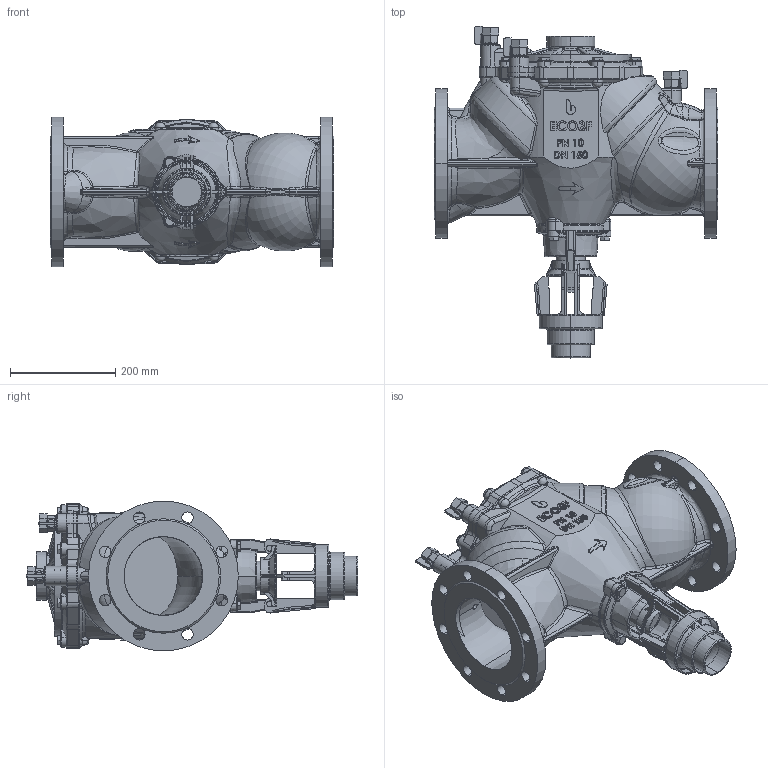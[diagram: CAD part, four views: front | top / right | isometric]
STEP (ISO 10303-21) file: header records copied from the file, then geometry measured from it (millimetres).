
FILE_DESCRIPTION (( 'STEP AP203' ), '1' );
FILE_NAME ('ECO3F.150.STEP', '2011-02-09T13:31:12', ( ' ' ), ( '' ), 'SwSTEP 2.0', 'SolidWorks 2009', '' );
FILE_SCHEMA (( 'CONFIG_CONTROL_DESIGN' ));
Products named in the file (1): ECO3F.150
Bounding box: 540 x 631.73 x 285 mm (x, y, z)
Volume: 11586447.2 mm3; surface area: 1499131.5 mm2
Topology: 1 solids, 30 shells, 3038 faces, 7784 edges, 4785 vertices
Faces by surface type: plane 859, bspline 728, cylinder 628, cone 407, torus 334, sphere 82
Entity records: 155488 total; most frequent: CARTESIAN_POINT 88920, ORIENTED_EDGE 15334, DIRECTION 12094, EDGE_CURVE 7667, AXIS2_PLACEMENT_3D 4857, VERTEX_POINT 4759, EDGE_LOOP 3196, FACE_OUTER_BOUND 3038
